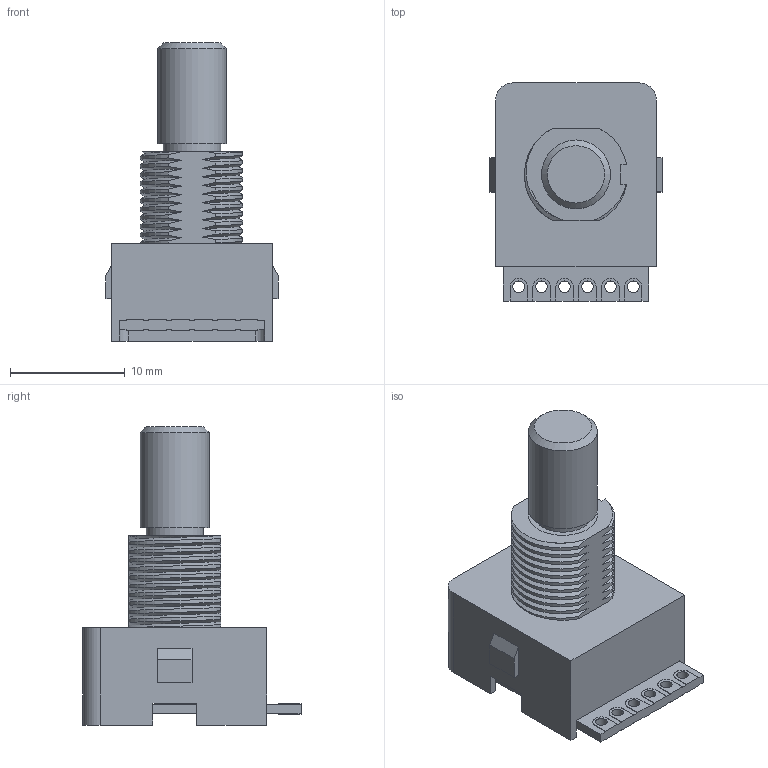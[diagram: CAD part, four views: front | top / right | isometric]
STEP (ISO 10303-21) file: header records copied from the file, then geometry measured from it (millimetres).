
FILE_DESCRIPTION (( 'STEP AP214' ), '1' );
FILE_NAME ('MRSC_6 Welle.STEP', '2019-03-12T12:32:21', ( '' ), ( '' ), 'SwSTEP 2.0', 'SolidWorks 2017', '' );
FILE_SCHEMA (( 'AUTOMOTIVE_DESIGN' ));
Length unit declared in the file: millimetre
Products named in the file (4): Welle; Platine; MRSC_6 Welle; Gehäuse
Assembly tree (3 placements, depth 2):
  MRSC_6 Welle
    Gehäuse
    Welle
    Platine
Bounding box: 15 x 19 x 26 mm (x, y, z)
Volume: 1541.1 mm3; surface area: 2671 mm2
Topology: 3 solids, 3 shells, 219 faces, 626 edges, 418 vertices
Faces by surface type: plane 88, bspline 66, cylinder 64, cone 1
Full cylindrical faces by diameter (mm): 1 x6, 5 x1, 6 x3
Entity records: 28900 total; most frequent: CARTESIAN_POINT 23139, ORIENTED_EDGE 1224, DIRECTION 760, EDGE_CURVE 612, VERTEX_POINT 415, VECTOR 314, LINE 314, EDGE_LOOP 249
